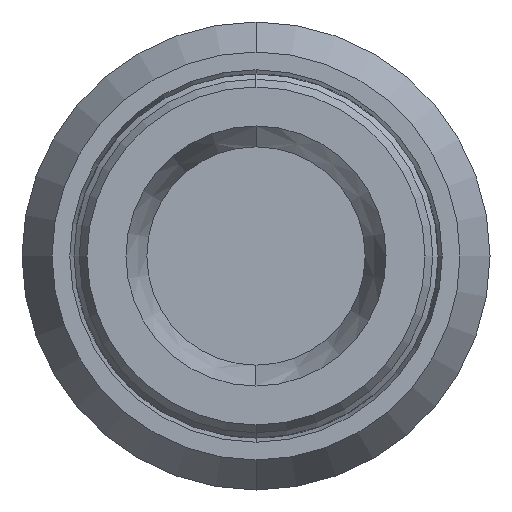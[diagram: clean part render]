
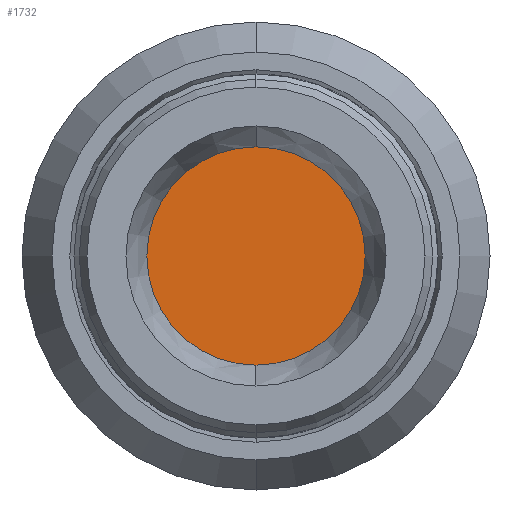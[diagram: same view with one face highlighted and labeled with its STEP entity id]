
A CAD part, front view. The second image highlights one B-rep face of the part: STEP entity #1732.
In plain terms, the highlighted planar face has unit normal (0, -1, 0).
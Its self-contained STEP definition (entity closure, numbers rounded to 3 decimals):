
#290 = CIRCLE ( 'NONE', #1117, 10.498 ) ;
#391 = FACE_OUTER_BOUND ( 'NONE', #898, .T. ) ;
#522 = EDGE_CURVE ( 'NONE', #707, #575, #1583, .T. ) ;
#575 = VERTEX_POINT ( 'NONE', #1215 ) ;
#707 = VERTEX_POINT ( 'NONE', #1382 ) ;
#898 = EDGE_LOOP ( 'NONE', ( #1896, #3281 ) ) ;
#1054 = AXIS2_PLACEMENT_3D ( 'NONE', #2373, #2383, #2386 ) ;
#1117 = AXIS2_PLACEMENT_3D ( 'NONE', #2267, #2273, #2275 ) ;
#1215 = CARTESIAN_POINT ( 'NONE',  ( 0., -66.4, -10.498 ) ) ;
#1236 = DIRECTION ( 'NONE',  ( 0., 1., 0. ) ) ;
#1243 = DIRECTION ( 'NONE',  ( 0., 0., 1. ) ) ;
#1382 = CARTESIAN_POINT ( 'NONE',  ( 0., -66.4, 10.498 ) ) ;
#1545 = EDGE_CURVE ( 'NONE', #575, #707, #290, .T. ) ;
#1583 = CIRCLE ( 'NONE', #1612, 10.498 ) ;
#1612 = AXIS2_PLACEMENT_3D ( 'NONE', #2290, #1236, #1243 ) ;
#1732 = ADVANCED_FACE ( 'NONE', ( #391 ), #2347, .F. ) ;
#1896 = ORIENTED_EDGE ( 'NONE', *, *, #522, .F. ) ;
#2267 = CARTESIAN_POINT ( 'NONE',  ( 0., -66.4, 0. ) ) ;
#2273 = DIRECTION ( 'NONE',  ( 0., 1., 0. ) ) ;
#2275 = DIRECTION ( 'NONE',  ( 0., 0., 1. ) ) ;
#2290 = CARTESIAN_POINT ( 'NONE',  ( 0., -66.4, 0. ) ) ;
#2347 = PLANE ( 'NONE',  #1054 ) ;
#2373 = CARTESIAN_POINT ( 'NONE',  ( 0., -66.4, 0. ) ) ;
#2383 = DIRECTION ( 'NONE',  ( 0., 1., 0. ) ) ;
#2386 = DIRECTION ( 'NONE',  ( 0., 0., 1. ) ) ;
#3281 = ORIENTED_EDGE ( 'NONE', *, *, #1545, .F. ) ;
